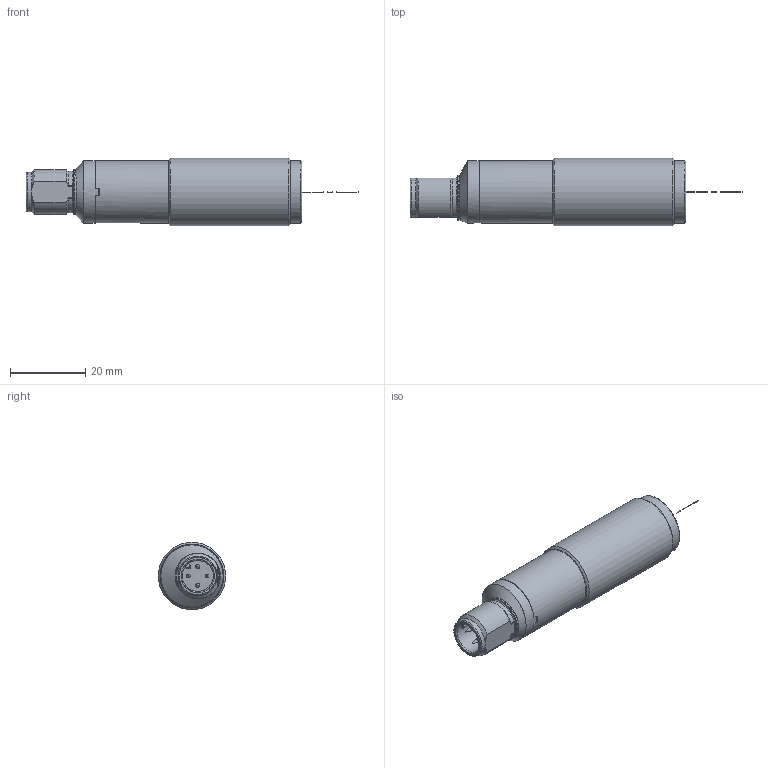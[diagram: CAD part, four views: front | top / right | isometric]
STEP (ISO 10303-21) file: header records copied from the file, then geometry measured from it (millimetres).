
FILE_DESCRIPTION(/* description */ (''),/* implementation_level */ '2;1');
FILE_NAME(/* name */ 'DSD-0009 S5-5-G8-62-SG-ST2.stp',/* time_stamp */ '2020-07-24T09:14:29+02:00',/* author */ (''),/* organization */ (''),/* preprocessor_version */ 'ST-DEVELOPER v16.7',/* originating_system */ 'SIEMENS PLM Software NX 12.0',/* authorisation */ '');
FILE_SCHEMA (('AUTOMOTIVE_DESIGN { 1 0 10303 214 3 1 1 1 }'));
Length unit declared in the file: millimetre
Products named in the file (1): FGut30D8E90Fyokq
Bounding box: 88.5 x 18 x 18 mm (x, y, z)
Surface area: 4498.1 mm2
Topology: 3 solids, 94 shells, 100 faces, 387 edges, 362 vertices
Faces by surface type: cylinder 36, plane 35, cone 12, bspline 11, torus 6
Full cylindrical faces by diameter (mm): 0.1 x3, 1 x4, 8.3 x1, 10.5 x1, 12.1 x1, 16.55 x2, 16.6 x1, 18 x1
Entity records: 6292 total; most frequent: CARTESIAN_POINT 2653, DIRECTION 503, ORIENTED_EDGE 374, EDGE_CURVE 365, VERTEX_POINT 362, AXIS2_PLACEMENT_3D 194, EDGE_LOOP 131, LINE 115
